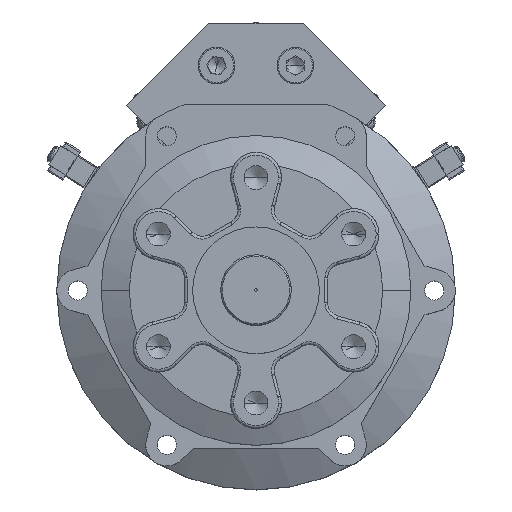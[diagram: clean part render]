
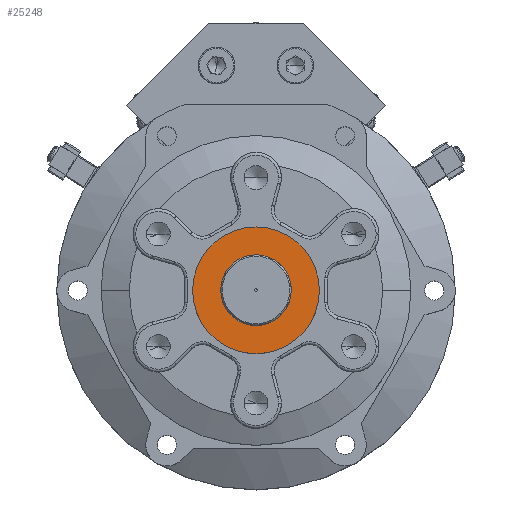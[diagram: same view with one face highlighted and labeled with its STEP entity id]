
A CAD part, top view. The second image highlights one B-rep face of the part: STEP entity #25248.
In plain terms, the highlighted planar face has unit normal (0, 0, 1).
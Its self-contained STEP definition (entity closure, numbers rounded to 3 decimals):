
#1455 = ORIENTED_EDGE ( 'NONE', *, *, #8874, .F. ) ;
#1967 = PLANE ( 'NONE',  #22727 ) ;
#2470 = EDGE_LOOP ( 'NONE', ( #1455, #32231 ) ) ;
#2772 = AXIS2_PLACEMENT_3D ( 'NONE', #11499, #11732, #31593 ) ;
#4578 = CARTESIAN_POINT ( 'NONE',  ( 0., 0., 65. ) ) ;
#5708 = EDGE_CURVE ( 'NONE', #28151, #23102, #12694, .T. ) ;
#6282 = AXIS2_PLACEMENT_3D ( 'NONE', #18767, #23965, #26782 ) ;
#6333 = CIRCLE ( 'NONE', #2772, 12.5 ) ;
#7456 = DIRECTION ( 'NONE',  ( 0., 0., 1. ) ) ;
#7954 = VERTEX_POINT ( 'NONE', #21449 ) ;
#8247 = EDGE_CURVE ( 'NONE', #7954, #32133, #35178, .T. ) ;
#8874 = EDGE_CURVE ( 'NONE', #23102, #28151, #6333, .T. ) ;
#10039 = DIRECTION ( 'NONE',  ( 1., 0., 0. ) ) ;
#10777 = ORIENTED_EDGE ( 'NONE', *, *, #8247, .T. ) ;
#11468 = FACE_OUTER_BOUND ( 'NONE', #26302, .T. ) ;
#11499 = CARTESIAN_POINT ( 'NONE',  ( 0., 0., 65. ) ) ;
#11732 = DIRECTION ( 'NONE',  ( 0., 0., 1. ) ) ;
#12275 = AXIS2_PLACEMENT_3D ( 'NONE', #27138, #7456, #10039 ) ;
#12694 = CIRCLE ( 'NONE', #6282, 12.5 ) ;
#12834 = DIRECTION ( 'NONE',  ( 1., 0., 0. ) ) ;
#13707 = FACE_BOUND ( 'NONE', #2470, .T. ) ;
#14726 = CARTESIAN_POINT ( 'NONE',  ( -12.5, 0., 65. ) ) ;
#16269 = DIRECTION ( 'NONE',  ( 0., 0., 1. ) ) ;
#18767 = CARTESIAN_POINT ( 'NONE',  ( 0., 0., 65. ) ) ;
#19242 = CARTESIAN_POINT ( 'NONE',  ( -22.5, 0., 65. ) ) ;
#21449 = CARTESIAN_POINT ( 'NONE',  ( 22.5, 0., 65. ) ) ;
#21533 = AXIS2_PLACEMENT_3D ( 'NONE', #27949, #23001, #12834 ) ;
#22727 = AXIS2_PLACEMENT_3D ( 'NONE', #4578, #16269, #36089 ) ;
#23001 = DIRECTION ( 'NONE',  ( 0., 0., 1. ) ) ;
#23102 = VERTEX_POINT ( 'NONE', #23669 ) ;
#23669 = CARTESIAN_POINT ( 'NONE',  ( 12.5, 0., 65. ) ) ;
#23965 = DIRECTION ( 'NONE',  ( 0., 0., 1. ) ) ;
#25241 = CIRCLE ( 'NONE', #12275, 22.5 ) ;
#25248 = ADVANCED_FACE ( 'NONE', ( #13707, #11468 ), #1967, .T. ) ;
#26302 = EDGE_LOOP ( 'NONE', ( #32083, #10777 ) ) ;
#26782 = DIRECTION ( 'NONE',  ( 1., 0., 0. ) ) ;
#27138 = CARTESIAN_POINT ( 'NONE',  ( 0., 0., 65. ) ) ;
#27949 = CARTESIAN_POINT ( 'NONE',  ( 0., 0., 65. ) ) ;
#28151 = VERTEX_POINT ( 'NONE', #14726 ) ;
#31593 = DIRECTION ( 'NONE',  ( 1., 0., 0. ) ) ;
#32083 = ORIENTED_EDGE ( 'NONE', *, *, #35895, .T. ) ;
#32133 = VERTEX_POINT ( 'NONE', #19242 ) ;
#32231 = ORIENTED_EDGE ( 'NONE', *, *, #5708, .F. ) ;
#35178 = CIRCLE ( 'NONE', #21533, 22.5 ) ;
#35895 = EDGE_CURVE ( 'NONE', #32133, #7954, #25241, .T. ) ;
#36089 = DIRECTION ( 'NONE',  ( 1., 0., 0. ) ) ;
